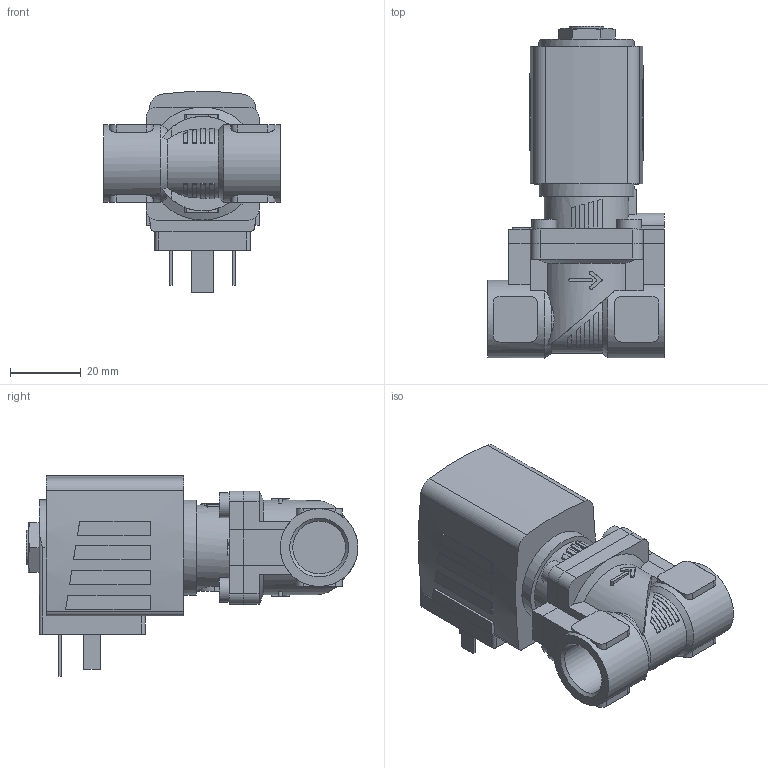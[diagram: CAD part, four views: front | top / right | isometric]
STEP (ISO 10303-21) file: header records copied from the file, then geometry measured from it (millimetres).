
FILE_DESCRIPTION(/* description */ ('STEP AP214'),/* implementation_level */ '2;1');
FILE_NAME(/* name */ '6281-361626-2_2-Way_Solenoid_Valve__Servo-assisted__General_Purpose',/* time_stamp */ '2024-05-20T11:39:37+02:00',/* author */ ('License CC BY-ND 4.0'),/* organization */ ('CADENAS'),/* preprocessor_version */ 'ST-DEVELOPER v19.3',/* originating_system */ 'PARTsolutions',/* authorisation */ ' ');
FILE_SCHEMA (('AUTOMOTIVE_DESIGN {1 0 10303 214 3 1 1}'));
Length unit declared in the file: millimetre
Products named in the file (4): 6281-361626-2/2-Way Solenoid Valve, Servo-assisted, General Purpose; 5281ev100MS2/2-Wege-Magnetventil mit Servomembran-Deckel   ; 6213-10G3/8MS-Gehaeuse-; AC10ex-5NA38-Plan-Coil
Assembly tree (3 placements, depth 2):
  6281-361626-2/2-Way Solenoid Valve, Servo-assisted, General Purpose
    5281ev100MS2/2-Wege-Magnetventil mit Servomembran-Deckel   
    6213-10G3/8MS-Gehaeuse-
    AC10ex-5NA38-Plan-Coil
Bounding box: 50 x 94 x 56.91 mm (x, y, z)
Volume: 90467.2 mm3; surface area: 22211.6 mm2
Topology: 3 solids, 3 shells, 324 faces, 826 edges, 546 vertices
Faces by surface type: plane 225, cylinder 86, cone 13
Full cylindrical faces by diameter (mm): 2.013 x1, 7 x4, 9.74 x1, 14.95 x2, 22 x1, 27 x1
Entity records: 11030 total; most frequent: CARTESIAN_POINT 1928, DIRECTION 1642, ORIENTED_EDGE 1612, EDGE_CURVE 806, AXIS2_PLACEMENT_3D 575, VERTEX_POINT 539, LINE 492, VECTOR 492
